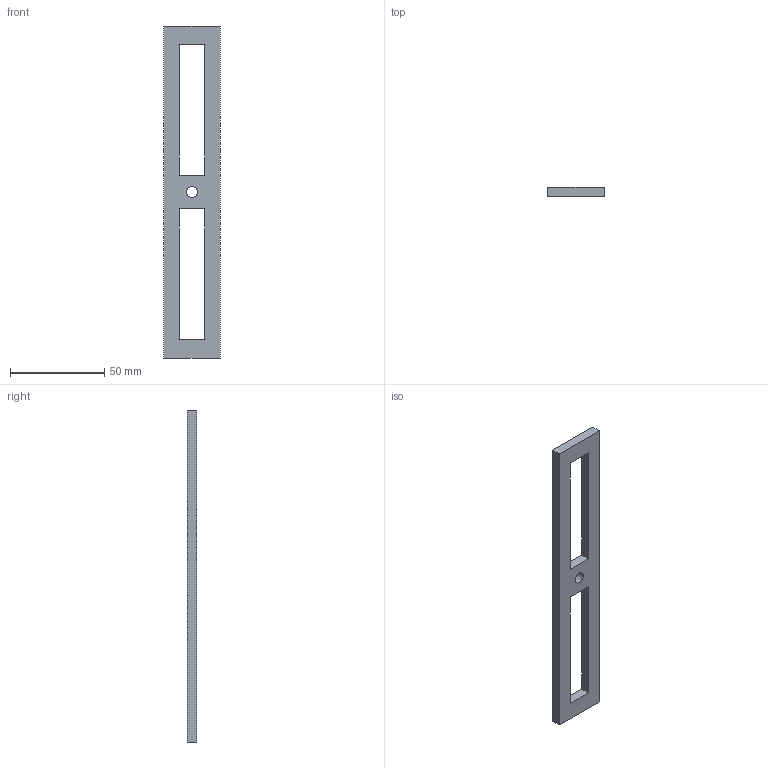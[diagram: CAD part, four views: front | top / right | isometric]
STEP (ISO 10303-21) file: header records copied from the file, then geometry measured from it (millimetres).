
FILE_DESCRIPTION((''),'2;1');
FILE_NAME('OCP-TTF-FOAM-SEAL-DSFF','2025-03-17T16:10:26',('T_Dawson'),('Dell Technologies'),'CREO PARAMETRIC BY PTC INC, 2023294','CREO PARAMETRIC BY PTC INC, 2023294','');
FILE_SCHEMA(('AUTOMOTIVE_DESIGN { 1 0 10303 214 1 1 1 1 }'));
Length unit declared in the file: millimetre
Products named in the file (1): OCP-TTF-FOAM-SEAL-DSFF
Bounding box: 30 x 4.93 x 176 mm (x, y, z)
Volume: 16706.4 mm3; surface area: 10528.4 mm2
Topology: 1 solids, 1 shells, 16 faces, 42 edges, 28 vertices
Faces by surface type: plane 14, cylinder 2
Entity records: 1247 total; most frequent: DIRECTION 197, CARTESIAN_POINT 169, COLOUR_RGB 109, ORIENTED_EDGE 84, AXIS2_PLACEMENT_3D 66, EDGE_CURVE 42, VECTOR 41, LINE 41
